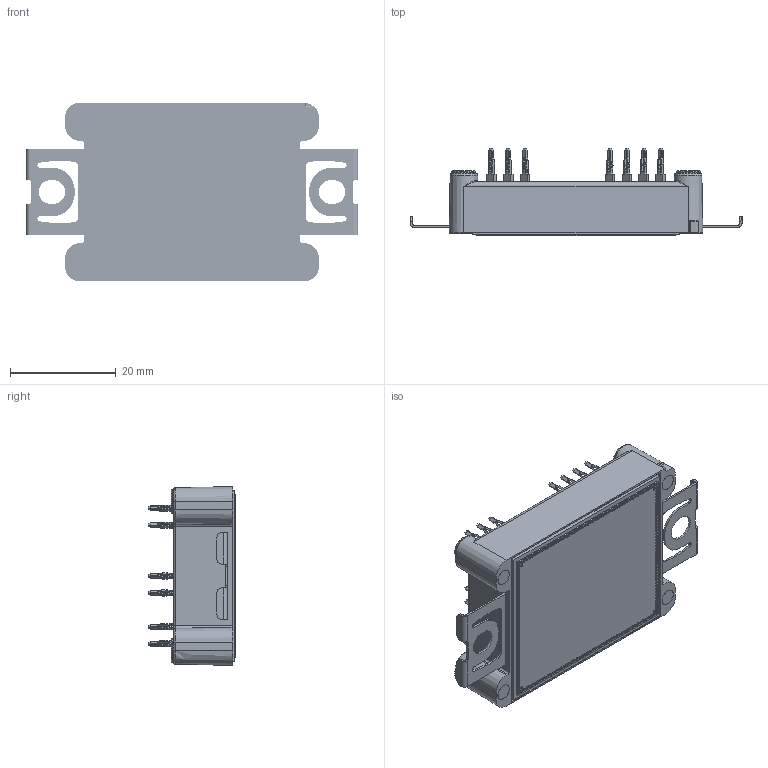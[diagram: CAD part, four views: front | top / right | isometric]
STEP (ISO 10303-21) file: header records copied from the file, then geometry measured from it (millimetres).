
FILE_DESCRIPTION (( 'STEP AP214' ), '1' );
FILE_NAME ('CBB030A23FM4 (2026-07-21).STEP', '2026-07-21T18:32:39', ( '' ), ( '' ), 'SwSTEP 2.0', 'SolidWorks 2025', '' );
FILE_SCHEMA (( 'AUTOMOTIVE_DESIGN' ));
Length unit declared in the file: millimetre
Products named in the file (1): CBB030A23FM4 (2026-07-21)
Bounding box: 62.8 x 16.55 x 33.8 mm (x, y, z)
Volume: 9625.9 mm3; surface area: 12002.6 mm2
Topology: 2 solids, 2 shells, 5538 faces, 15336 edges, 10043 vertices
Faces by surface type: plane 2553, cylinder 2426, torus 402, cone 138, bspline 16, sphere 3
Entity records: 179723 total; most frequent: CARTESIAN_POINT 32911, DIRECTION 31829, ORIENTED_EDGE 30662, EDGE_CURVE 15331, AXIS2_PLACEMENT_3D 11252, VERTEX_POINT 10043, VECTOR 9325, LINE 9325
